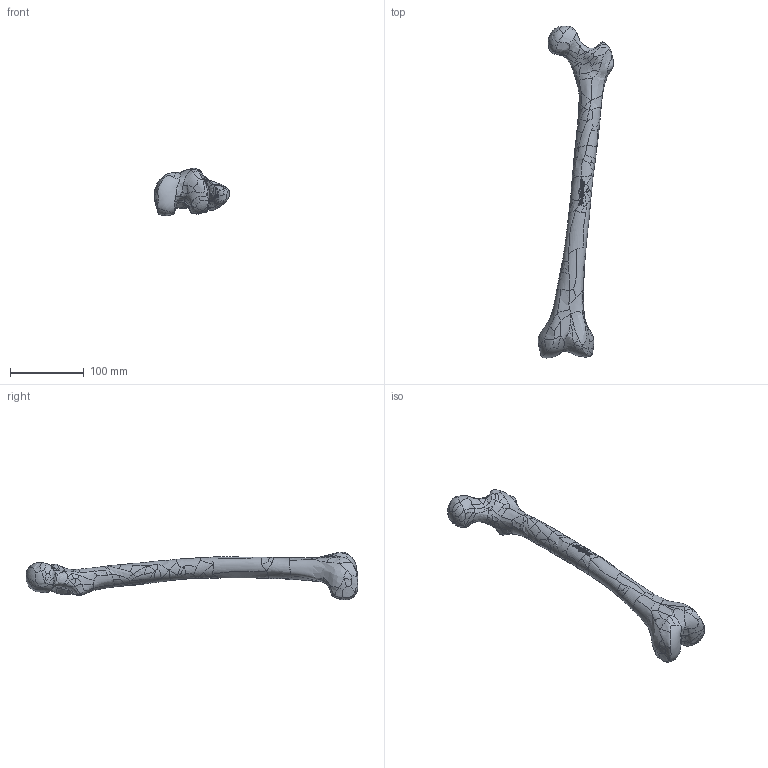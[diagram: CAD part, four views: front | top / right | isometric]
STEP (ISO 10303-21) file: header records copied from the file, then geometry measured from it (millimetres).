
FILE_DESCRIPTION (( 'STEP AP203' ), '1' );
FILE_NAME ('1100.STEP', '2025-05-22T20:53:04', ( '' ), ( '' ), 'SwSTEP 2.0', 'SolidWorks 2024', '' );
FILE_SCHEMA (( 'CONFIG_CONTROL_DESIGN' ));
Products named in the file (1): 1100
Bounding box: 101.73 x 449.45 x 64.04 mm (x, y, z)
Volume: 473013.6 mm3; surface area: 58126.5 mm2
Topology: 1 solids, 1 shells, 586 faces, 1511 edges, 931 vertices
Faces by surface type: bspline 584, plane 2
Entity records: 922351 total; most frequent: CARTESIAN_POINT 912934, ORIENTED_EDGE 3022, EDGE_CURVE 1511, B_SPLINE_CURVE_WITH_KNOTS 1511, VERTEX_POINT 931, EDGE_LOOP 590, FACE_OUTER_BOUND 586, ADVANCED_FACE 586
